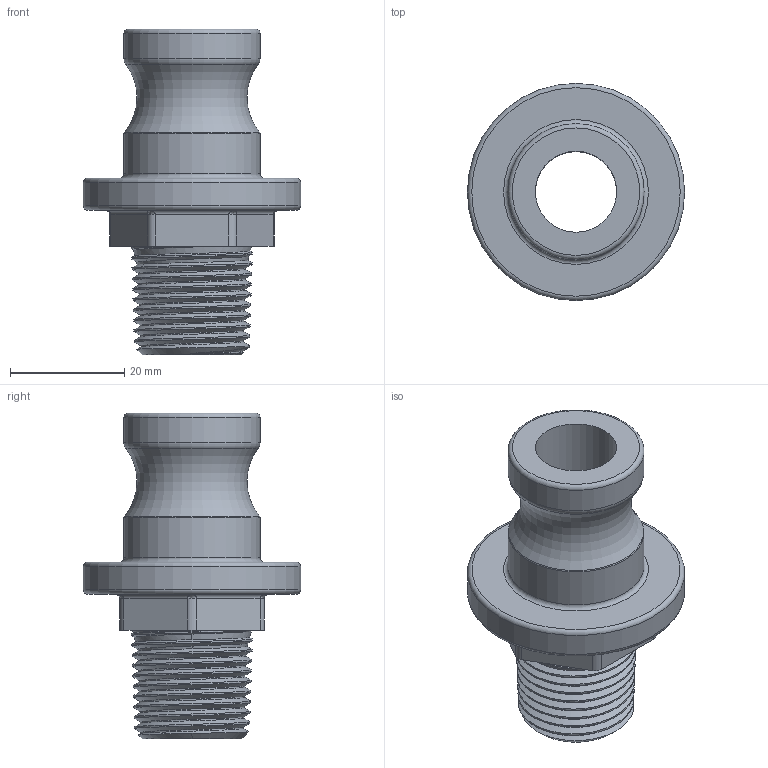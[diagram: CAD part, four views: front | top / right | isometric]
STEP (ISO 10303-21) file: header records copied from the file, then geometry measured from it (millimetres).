
FILE_DESCRIPTION(/* description */ ('Alibre Inc.'),/* implementation_level */ '2;1');
FILE_NAME(/* name */ 'export0',/* time_stamp */ '2016-03-10T17:53:05-05:00',/* author */ (''),/* organization */ (''),/* preprocessor_version */ 'ST-DEVELOPER v14',/* originating_system */ 'Alibre',/* authorisation */ '');
FILE_SCHEMA (('CONFIG_CONTROL_DESIGN'));
Length unit declared in the file: centimetre
Products named in the file (1): ID_1
Bounding box: 38.1 x 38.1 x 57.15 mm (x, y, z)
Volume: 16958.5 mm3; surface area: 9298 mm2
Topology: 1 solids, 1 shells, 74 faces, 187 edges, 112 vertices
Faces by surface type: cone 32, cylinder 16, plane 11, bspline 9, torus 6
Full cylindrical faces by diameter (mm): 14.224 x1, 23.876 x2, 38.1 x1
Entity records: 24956 total; most frequent: CARTESIAN_POINT 23314, ORIENTED_EDGE 338, DIRECTION 264, EDGE_CURVE 169, VERTEX_POINT 111, AXIS2_PLACEMENT_3D 111, EDGE_LOOP 90, FACE_BOUND 90
